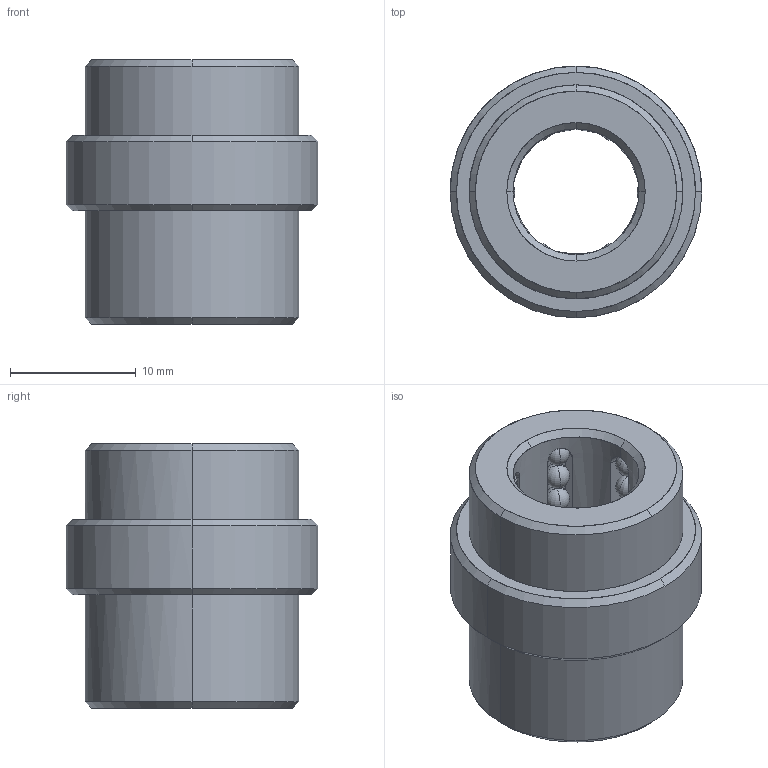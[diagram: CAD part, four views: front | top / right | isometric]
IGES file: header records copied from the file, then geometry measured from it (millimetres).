
Start section: START RECORD GO HERE.
Global section: file name: B844100912.igs; native system: DASSAULT SYSTEMES CATIA V5 R20 - www.3ds.com; preprocessor: CATIA Version 5 Release 20 ; author: Utente; organization: NB04-ASUS; date: 20210504.171825; units: millimetre
Bounding box: 20 x 20 x 21 mm (x, y, z)
Surface area: 3264.1 mm2 (no closed solid volume)
Topology: 0 solids, 0 shells, 258 faces, 1092 edges, 708 vertices
Faces by surface type: revolution 236, plane 22
